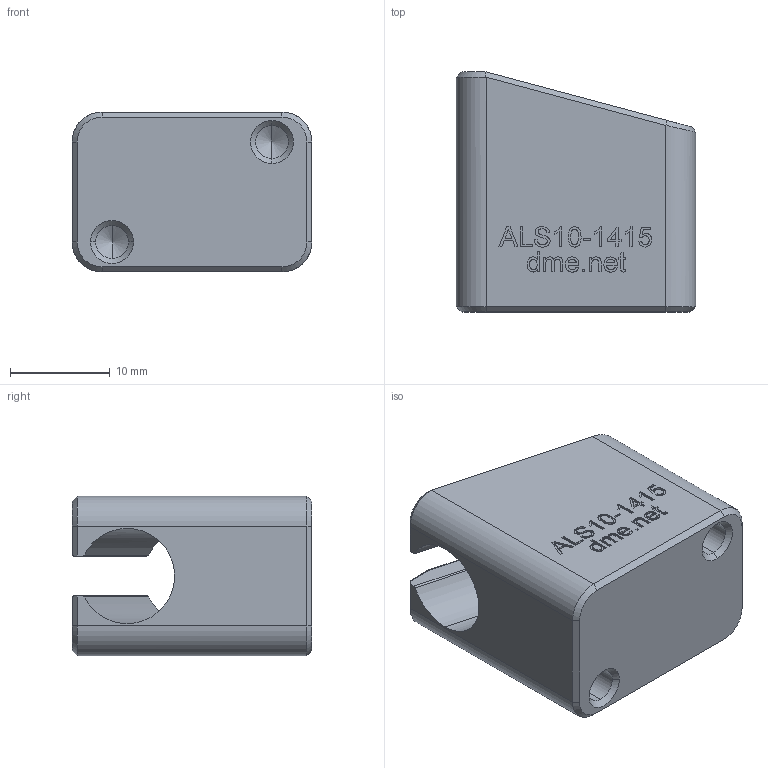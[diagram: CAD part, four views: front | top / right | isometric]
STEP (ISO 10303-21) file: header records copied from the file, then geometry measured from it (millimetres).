
FILE_DESCRIPTION (( 'STEP AP203' ), '1' );
FILE_NAME ('ALS10-1415.STEP', '2021-01-08T21:54:19', ( '' ), ( '' ), 'SwSTEP 2.0', 'SolidWorks 2020', '' );
FILE_SCHEMA (( 'CONFIG_CONTROL_DESIGN' ));
Length unit declared in the file: millimetre
Products named in the file (1): ALS10-1415
Bounding box: 24 x 24 x 16 mm (x, y, z)
Volume: 6074.2 mm3; surface area: 2972.3 mm2
Topology: 1 solids, 1 shells, 268 faces, 705 edges, 460 vertices
Faces by surface type: plane 149, bspline 91, cone 14, cylinder 14
Entity records: 12759 total; most frequent: CARTESIAN_POINT 6747, ORIENTED_EDGE 1402, DIRECTION 885, EDGE_CURVE 701, LINE 477, VECTOR 477, VERTEX_POINT 460, EDGE_LOOP 293
